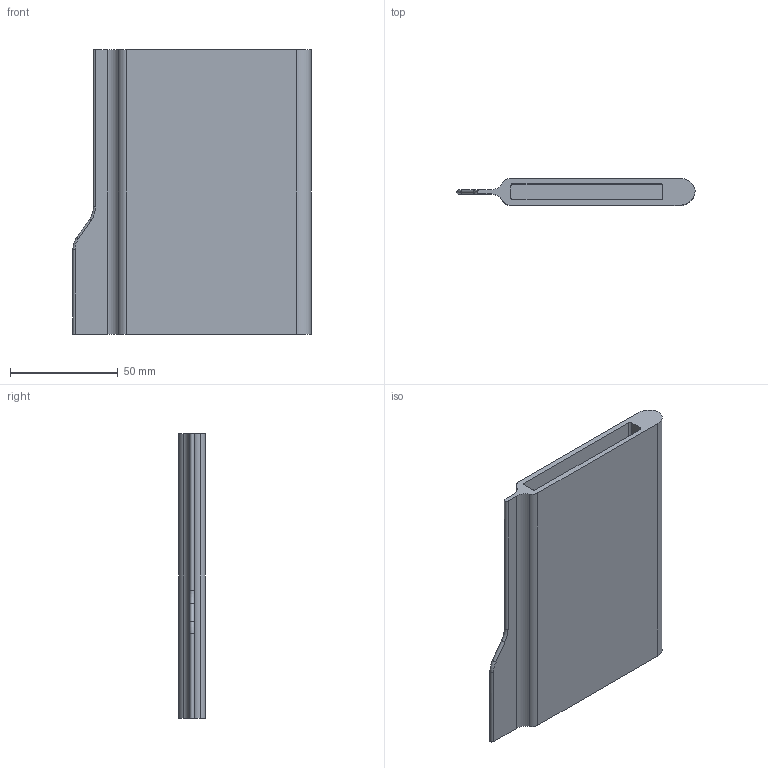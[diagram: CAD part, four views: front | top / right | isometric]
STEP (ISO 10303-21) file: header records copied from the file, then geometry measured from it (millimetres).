
FILE_DESCRIPTION(/* description */ (''),/* implementation_level */ '2;1');
FILE_NAME(/* name */ 'shell none.step',/* time_stamp */ '2025-09-12T21:17:26+02:00',/* author */ (''),/* organization */ (''),/* preprocessor_version */ 'ST-DEVELOPER v20.1',/* originating_system */ 'Autodesk Translation Framework v14.10.0.0',/* authorisation */ '');
FILE_SCHEMA (('AUTOMOTIVE_DESIGN { 1 0 10303 214 3 1 1 }'));
Length unit declared in the file: millimetre
Products named in the file (1): case tipo3
Bounding box: 110.5 x 12.5 x 132 mm (x, y, z)
Volume: 84693.6 mm3; surface area: 50280.9 mm2
Topology: 1 solids, 1 shells, 27 faces, 73 edges, 49 vertices
Faces by surface type: cylinder 14, plane 11, torus 2
Entity records: 901 total; most frequent: CARTESIAN_POINT 160, DIRECTION 158, ORIENTED_EDGE 146, EDGE_CURVE 73, AXIS2_PLACEMENT_3D 59, VERTEX_POINT 49, LINE 40, VECTOR 40
